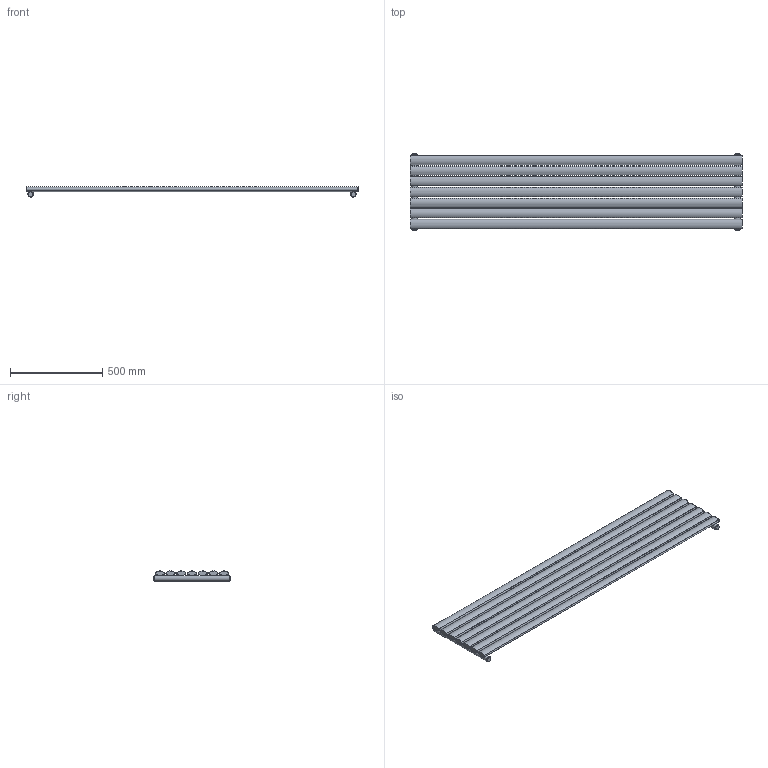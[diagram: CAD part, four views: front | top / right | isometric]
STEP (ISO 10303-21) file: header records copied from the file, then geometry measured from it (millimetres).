
FILE_DESCRIPTION(/* description */ (''),/* implementation_level */ '2;1');
FILE_NAME(/* name */ 'C:\Grzejniki\13DLUXRAD\pokojowe\FORTUNA\FORTUNA POJEDYNCZA 1800x410.iam.stp',/* time_stamp */ '2016-06-28T17:32:16+02:00',/* author */ ('m.szydziak'),/* organization */ (''),/* preprocessor_version */ 'ST-DEVELOPER v16.5',/* originating_system */ 'Autodesk Inventor 2017',/* authorisation */ '');
FILE_SCHEMA (('AUTOMOTIVE_DESIGN { 1 0 10303 214 3 1 1 }'));
Length unit declared in the file: millimetre
Products named in the file (5): FORTUNA POJEDYNCZA1800x410; %%c30x1,5x410; 50x25x1,2x1800; zaślepka fi30 G0,5inch; korek
Assembly tree (17 placements, depth 2):
  FORTUNA POJEDYNCZA1800x410
    %%c30x1,5x410  x2
    50x25x1,2x1800  x7
    zaślepka fi30 G0,5inch  x4
    korek  x4
Bounding box: 1800 x 422 x 54.86 mm (x, y, z)
Volume: 1899896.3 mm3; surface area: 3119761 mm2
Topology: 17 solids, 17 shells, 196 faces, 504 edges, 356 vertices
Faces by surface type: cylinder 100, plane 96
Full cylindrical faces by diameter (mm): 5 x14, 5.8 x14, 18.631 x4, 24 x4, 27 x6, 30 x2
Entity records: 2104 total; most frequent: CARTESIAN_POINT 850, DIRECTION 238, ORIENTED_EDGE 192, AXIS2_PLACEMENT_3D 103, EDGE_CURVE 96, EDGE_LOOP 80, VERTEX_POINT 76, FACE_OUTER_BOUND 44
